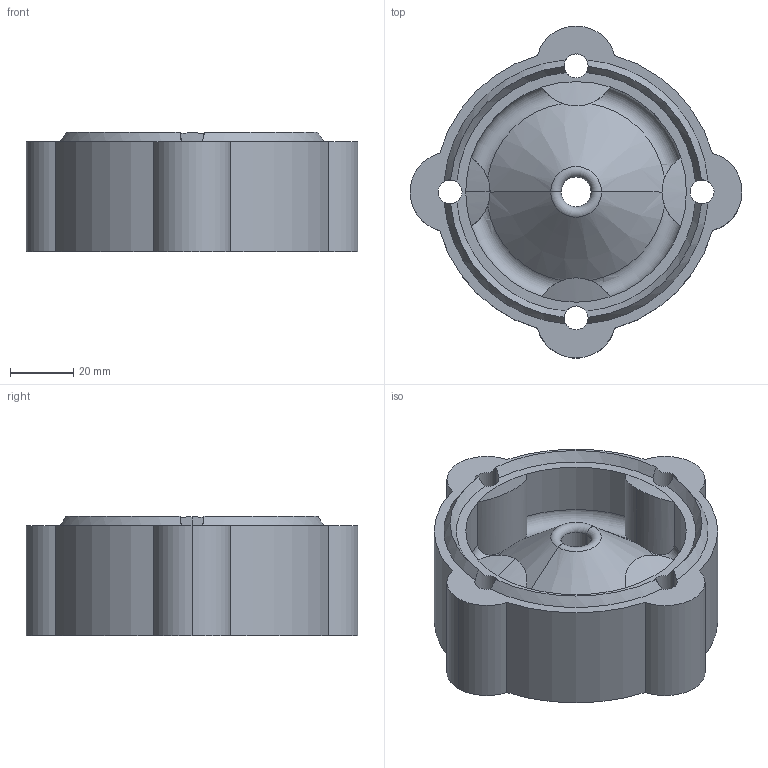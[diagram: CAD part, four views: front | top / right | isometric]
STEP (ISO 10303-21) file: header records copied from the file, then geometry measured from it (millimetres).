
FILE_DESCRIPTION (( 'STEP AP203' ), '1' );
FILE_NAME ('BlastBaffle.STEP', '2020-09-22T17:13:33', ( '' ), ( '' ), 'SwSTEP 2.0', 'SolidWorks 2019', '' );
FILE_SCHEMA (( 'CONFIG_CONTROL_DESIGN' ));
Length unit declared in the file: millimetre
Products named in the file (1): BlastBaffle
Bounding box: 105.35 x 105.3 x 38 mm (x, y, z)
Volume: 153002.4 mm3; surface area: 36407.9 mm2
Topology: 1 solids, 1 shells, 68 faces, 200 edges, 128 vertices
Faces by surface type: cylinder 33, cone 25, torus 6, plane 4
Entity records: 2957 total; most frequent: CARTESIAN_POINT 1093, ORIENTED_EDGE 400, DIRECTION 372, EDGE_CURVE 200, AXIS2_PLACEMENT_3D 169, VERTEX_POINT 128, CIRCLE 100, EDGE_LOOP 72
